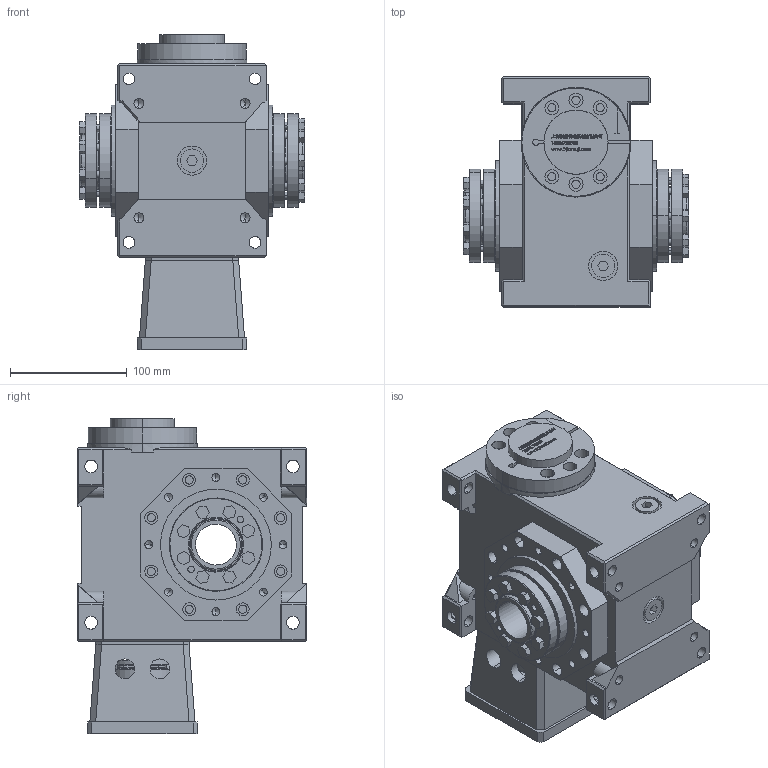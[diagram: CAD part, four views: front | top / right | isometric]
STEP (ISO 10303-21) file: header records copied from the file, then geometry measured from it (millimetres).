
FILE_DESCRIPTION (( 'STEP AP203' ), '1' );
FILE_NAME ('FXLB063-(5~90)-2C-19-70-90-M6.STEP', '2022-11-05T02:18:21', ( '' ), ( '' ), 'SwSTEP 2.0', 'SolidWorks 2020', '' );
FILE_SCHEMA (( 'CONFIG_CONTROL_DESIGN' ));
Products named in the file (1): FXLB063-(5~90)-2C-19-70-90-M6
Bounding box: 193 x 197 x 270.2 mm (x, y, z)
Volume: 4166304.3 mm3; surface area: 474734.8 mm2
Topology: 21 solids, 21 shells, 2227 faces, 5680 edges, 3684 vertices
Faces by surface type: plane 1220, cylinder 489, bspline 370, cone 92, torus 56
Entity records: 85031 total; most frequent: CARTESIAN_POINT 32830, ORIENTED_EDGE 11240, DIRECTION 9648, EDGE_CURVE 5620, VERTEX_POINT 3684, VECTOR 3632, LINE 3632, AXIS2_PLACEMENT_3D 3008
